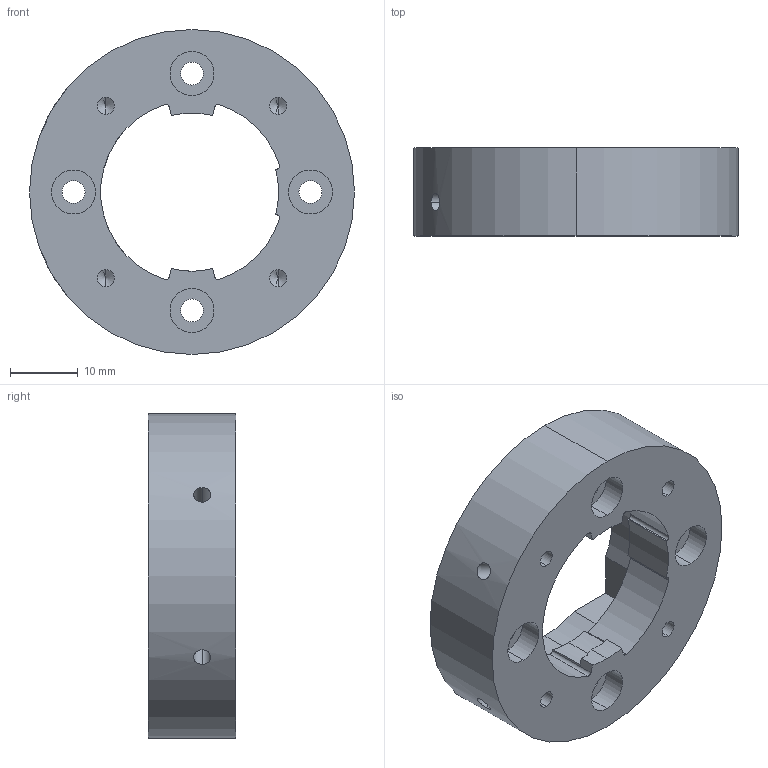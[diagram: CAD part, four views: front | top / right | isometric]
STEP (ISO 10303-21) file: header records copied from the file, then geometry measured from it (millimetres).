
FILE_DESCRIPTION (( 'STEP AP203' ), '1' );
FILE_NAME ('OPT_GRISM_0005 [2026-04-04].STEP', '2026-04-04T10:53:09', ( '' ), ( '' ), 'SwSTEP 2.0', 'SolidWorks 2014', '' );
FILE_SCHEMA (( 'CONFIG_CONTROL_DESIGN' ));
Length unit declared in the file: millimetre
Products named in the file (1): OPT_GRISM_0005 [2026-04-04]
Bounding box: 48 x 13 x 48 mm (x, y, z)
Volume: 14548.9 mm3; surface area: 6797.3 mm2
Topology: 1 solids, 1 shells, 108 faces, 287 edges, 178 vertices
Faces by surface type: cylinder 67, plane 25, cone 16
Entity records: 3538 total; most frequent: CARTESIAN_POINT 800, DIRECTION 567, ORIENTED_EDGE 542, EDGE_CURVE 271, AXIS2_PLACEMENT_3D 217, VERTEX_POINT 178, EDGE_LOOP 135, LINE 133
